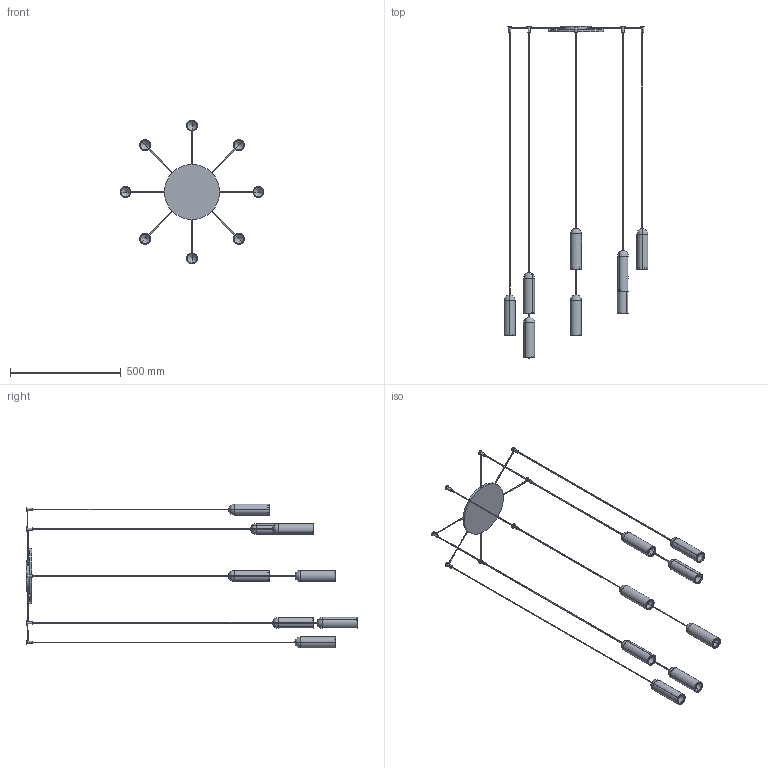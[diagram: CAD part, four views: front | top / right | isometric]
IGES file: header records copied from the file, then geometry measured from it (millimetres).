
Start section: SolidWorks IGES file using analytic representation for surfaces
Global section: file name: Y:\eforma\TECNICO\SOLIDWORKS\E-FORMA\09-LAMPADE\NANUM\08 modelli 3D web\NAN08-00-NANUM 8 ROSONE CENTRALE.IGS; native system: SolidWorks 2022; preprocessor: SolidWorks 2022; author: eforma.tech; date: 240801.144555; units: millimetre
Bounding box: 650 x 1500 x 650 mm (x, y, z)
Volume: 1431552.1 mm3; surface area: 742691 mm2
Topology: 25 solids, 25 shells, 304 faces, 603 edges, 350 vertices
Faces by surface type: revolution 243, plane 61
